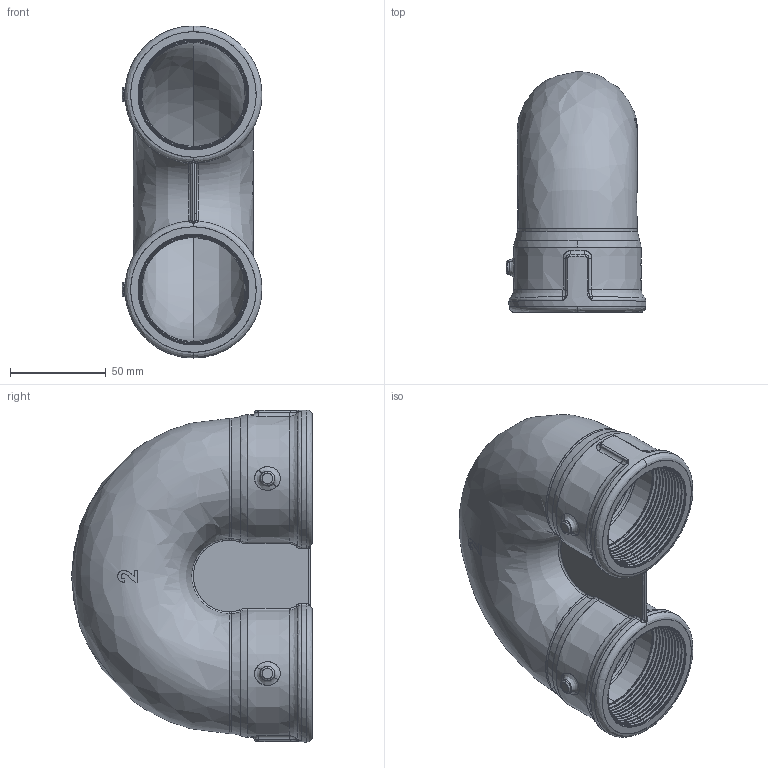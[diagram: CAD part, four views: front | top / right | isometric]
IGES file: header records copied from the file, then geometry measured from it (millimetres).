
Start section: SolidWorks IGES file using analytic representation for surfaces
Global section: file name: C:\Users\Joel Rosa\Desktop\Tubulação\12-29-XXX\12-29-010.IGS; native system: SolidWorks 2011; preprocessor: SolidWorks 2011; author: Joel Rosa; date: 130807.005051; units: millimetre
Bounding box: 73.1 x 125.9 x 173.6 mm (x, y, z)
Surface area: 105966.2 mm2 (no closed solid volume)
Topology: 0 solids, 0 shells, 468 faces, 4235 edges, 4231 vertices
Faces by surface type: bspline 329, revolution 139
